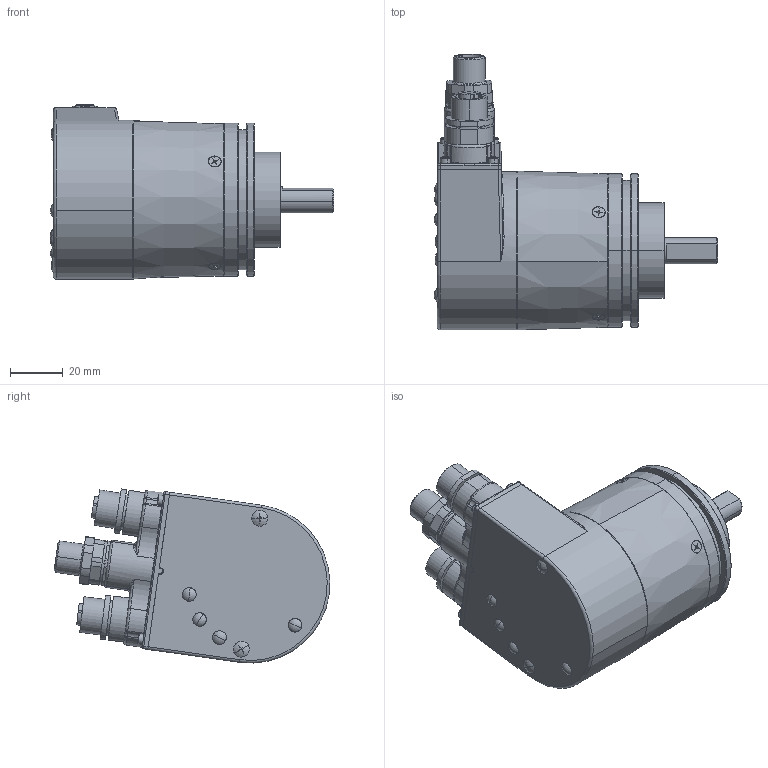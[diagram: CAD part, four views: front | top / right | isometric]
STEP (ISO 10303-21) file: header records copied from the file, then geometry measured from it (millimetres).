
FILE_DESCRIPTION (( 'STEP AP214' ), '1' );
FILE_NAME ('8.5868.12C2.C212.STEP', '2017-04-07T05:52:17', ( '' ), ( '' ), 'SwSTEP 2.0', 'SolidWorks 2017', '' );
FILE_SCHEMA (( 'AUTOMOTIVE_DESIGN' ));
Length unit declared in the file: millimetre
Products named in the file (1): 8.5868.12C2.C212
Bounding box: 107.15 x 104.23 x 65.81 mm (x, y, z)
Volume: 108455 mm3; surface area: 79096.5 mm2
Topology: 30 solids, 31 shells, 2791 faces, 7411 edges, 4690 vertices
Faces by surface type: cylinder 1167, plane 865, cone 376, torus 216, bspline 147, sphere 20
Entity records: 126320 total; most frequent: CARTESIAN_POINT 26278, DIRECTION 14876, ORIENTED_EDGE 14618, EDGE_CURVE 7309, AXIS2_PLACEMENT_3D 6049, VERTEX_POINT 4690, CIRCLE 3404, EDGE_LOOP 2981
